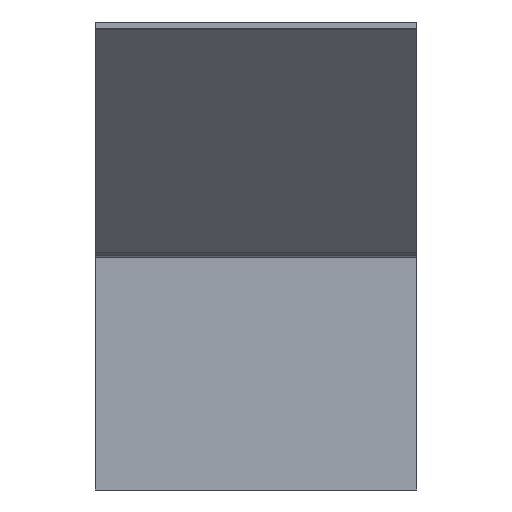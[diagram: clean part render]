
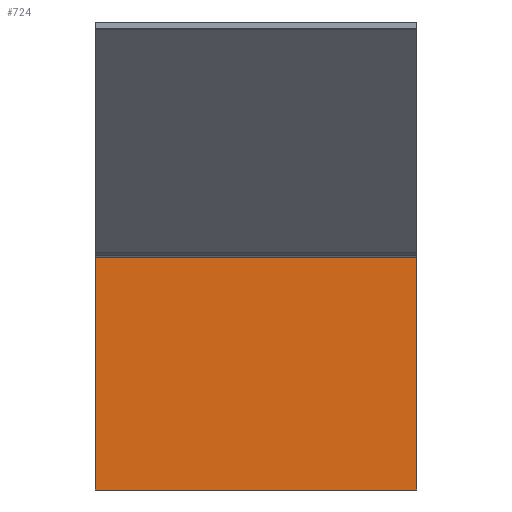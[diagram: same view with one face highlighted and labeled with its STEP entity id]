
A CAD part, left-side view. The second image highlights one B-rep face of the part: STEP entity #724.
In plain terms, the highlighted planar face has unit normal (-1, 0, 0).
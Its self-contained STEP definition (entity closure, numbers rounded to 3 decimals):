
#217=DIRECTION('',(0.,0.,-1.));
#218=VECTOR('',#217,72.25);
#219=CARTESIAN_POINT('',(118.711,100.,-73.461));
#220=LINE('',#219,#218);
#233=DIRECTION('',(0.,1.,0.));
#234=VECTOR('',#233,100.);
#235=CARTESIAN_POINT('',(118.711,0.,-145.711));
#236=LINE('',#235,#234);
#237=DIRECTION('',(0.,-1.,0.));
#238=VECTOR('',#237,100.);
#239=CARTESIAN_POINT('',(118.711,100.,-73.461));
#240=LINE('',#239,#238);
#249=DIRECTION('',(0.,0.,-1.));
#250=VECTOR('',#249,72.25);
#251=CARTESIAN_POINT('',(118.711,0.,
-73.461));
#252=LINE('',#251,#250);
#309=CARTESIAN_POINT('',(118.711,100.,-73.461));
#310=CARTESIAN_POINT('',(118.711,0.,
-73.461));
#311=VERTEX_POINT('',#309);
#312=VERTEX_POINT('',#310);
#313=CARTESIAN_POINT('',(118.711,100.,-145.711));
#314=VERTEX_POINT('',#313);
#315=CARTESIAN_POINT('',(118.711,0.,-145.711));
#316=VERTEX_POINT('',#315);
#712=CARTESIAN_POINT('',(118.711,0.,-70.711));
#713=DIRECTION('',(1.,0.,0.));
#714=DIRECTION('',(0.,0.,-1.));
#715=AXIS2_PLACEMENT_3D('',#712,#713,#714);
#716=PLANE('',#715);
#717=ORIENTED_EDGE('',*,*,#538,.T.);
#719=ORIENTED_EDGE('',*,*,#718,.T.);
#720=ORIENTED_EDGE('',*,*,#705,.T.);
#721=ORIENTED_EDGE('',*,*,#677,.F.);
#722=EDGE_LOOP('',(#717,#719,#720,#721));
#723=FACE_OUTER_BOUND('',#722,.F.);
#538=EDGE_CURVE('',#311,#312,#240,.T.);
#677=EDGE_CURVE('',#311,#314,#220,.T.);
#705=EDGE_CURVE('',#316,#314,#236,.T.);
#718=EDGE_CURVE('',#312,#316,#252,.T.);
#724=ADVANCED_FACE('',(#723),#716,.F.);
